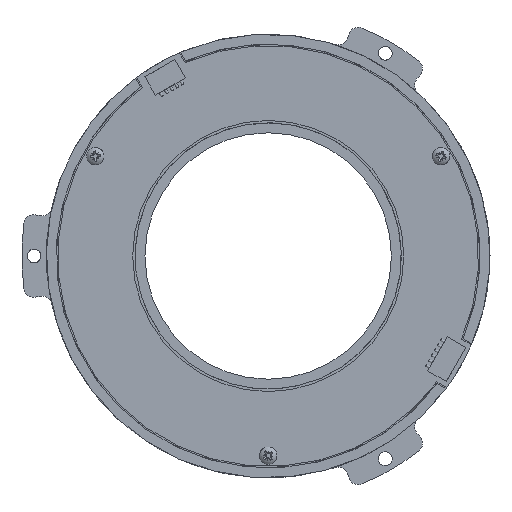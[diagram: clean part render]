
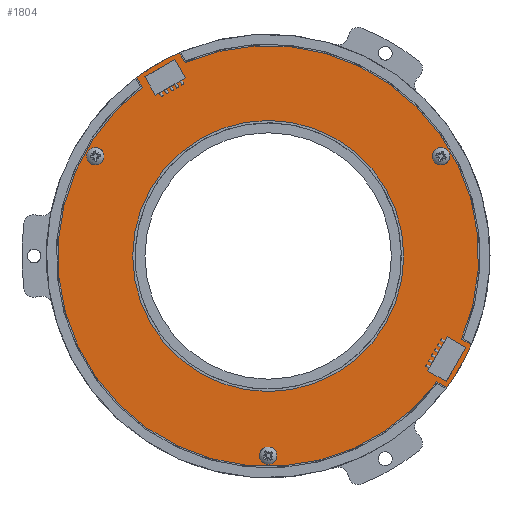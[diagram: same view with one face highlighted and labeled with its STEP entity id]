
A CAD part, left-side view. The second image highlights one B-rep face of the part: STEP entity #1804.
In plain terms, the highlighted planar face has unit normal (-1, 0, 0) as drawn and (0, 0, 1) by its records, which use the part's own axes.
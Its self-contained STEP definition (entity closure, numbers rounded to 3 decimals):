
#1804=ADVANCED_FACE('',(#4052,#4054,#4056,#4058,#4060),#4062,.T.);
#4052=FACE_BOUND('',#4053,.T.);
#4053=EDGE_LOOP('',(#5821,#5822,#5823,#5824,#5825,#5826,#5827,#5828));
#4054=FACE_BOUND('',#4055,.T.);
#4055=EDGE_LOOP('',(#5829,#5830));
#4056=FACE_BOUND('',#4057,.T.);
#4057=EDGE_LOOP('',(#5831,#5832));
#4058=FACE_BOUND('',#4059,.T.);
#4059=EDGE_LOOP('',(#5833));
#4060=FACE_BOUND('',#4061,.T.);
#4061=EDGE_LOOP('',(#5834));
#4062=PLANE('',#4063);
#4063=AXIS2_PLACEMENT_3D('',#4064,#4065,#4066);
#4064=CARTESIAN_POINT('',(0.,0.,1.6));
#4065=DIRECTION('',(0.,0.,1.));
#4066=DIRECTION('',(1.,0.,0.));
#5821=ORIENTED_EDGE('',*,*,#6724,.T.);
#5822=ORIENTED_EDGE('',*,*,#6761,.T.);
#5823=ORIENTED_EDGE('',*,*,#6762,.T.);
#5824=ORIENTED_EDGE('',*,*,#6763,.T.);
#5825=ORIENTED_EDGE('',*,*,#6764,.T.);
#5826=ORIENTED_EDGE('',*,*,#6726,.T.);
#5827=ORIENTED_EDGE('',*,*,#6760,.T.);
#5828=ORIENTED_EDGE('',*,*,#6747,.T.);
#5829=ORIENTED_EDGE('',*,*,#6732,.T.);
#5830=ORIENTED_EDGE('',*,*,#6733,.T.);
#5831=ORIENTED_EDGE('',*,*,#6757,.T.);
#5832=ORIENTED_EDGE('',*,*,#6758,.T.);
#5833=ORIENTED_EDGE('',*,*,#6759,.T.);
#5834=ORIENTED_EDGE('',*,*,#6720,.T.);
#6720=EDGE_CURVE('',#7540,#7540,#7541,.T.);
#6724=EDGE_CURVE('',#7549,#7547,#7550,.T.);
#6726=EDGE_CURVE('',#7552,#7553,#7554,.T.);
#6732=EDGE_CURVE('',#7564,#7565,#7566,.T.);
#6733=EDGE_CURVE('',#7565,#7564,#7567,.T.);
#6747=EDGE_CURVE('',#7592,#7549,#7593,.T.);
#6757=EDGE_CURVE('',#7607,#7608,#7609,.T.);
#6758=EDGE_CURVE('',#7608,#7607,#7610,.T.);
#6759=EDGE_CURVE('',#7611,#7611,#7612,.T.);
#6760=EDGE_CURVE('',#7553,#7592,#7613,.T.);
#6761=EDGE_CURVE('',#7547,#7614,#7615,.T.);
#6762=EDGE_CURVE('',#7614,#7616,#7617,.T.);
#6763=EDGE_CURVE('',#7616,#7618,#7619,.T.);
#6764=EDGE_CURVE('',#7618,#7552,#7620,.T.);
#7540=VERTEX_POINT('',#9322);
#7541=CIRCLE('',#9323,27.5);
#7547=VERTEX_POINT('',#9338);
#7549=VERTEX_POINT('',#9342);
#7550=CIRCLE('',#9343,42.7);
#7552=VERTEX_POINT('',#9350);
#7553=VERTEX_POINT('',#9351);
#7554=LINE('',#9352,#9353);
#7564=VERTEX_POINT('',#9376);
#7565=VERTEX_POINT('',#9377);
#7566=CIRCLE('',#9378,1.1);
#7567=CIRCLE('',#9382,1.1);
#7592=VERTEX_POINT('',#9442);
#7593=LINE('',#9443,#9444);
#7607=VERTEX_POINT('',#9477);
#7608=VERTEX_POINT('',#9478);
#7609=CIRCLE('',#9479,1.1);
#7610=CIRCLE('',#9483,1.1);
#7611=VERTEX_POINT('',#9487);
#7612=CIRCLE('',#9488,1.1);
#7613=CIRCLE('',#9492,45.);
#7614=VERTEX_POINT('',#9496);
#7615=LINE('',#9497,#9498);
#7616=VERTEX_POINT('',#9500);
#7617=CIRCLE('',#9501,45.);
#7618=VERTEX_POINT('',#9505);
#7619=LINE('',#9506,#9507);
#7620=CIRCLE('',#9509,42.7);
#9322=CARTESIAN_POINT('',(-27.5,0.,1.6));
#9323=AXIS2_PLACEMENT_3D('',#9324,#9325,#9326);
#9324=CARTESIAN_POINT('',(0.,0.,1.6));
#9325=DIRECTION('',(0.,0.,-1.));
#9326=DIRECTION('',(-1.,0.,0.));
#9338=CARTESIAN_POINT('',(-25.533,-34.225,1.6));
#9342=CARTESIAN_POINT('',(-5.,42.406,1.6));
#9343=AXIS2_PLACEMENT_3D('',#9344,#9345,#9346);
#9344=CARTESIAN_POINT('',(0.,0.,1.6));
#9345=DIRECTION('',(0.,0.,1.));
#9346=DIRECTION('',(-0.117,0.993,0.));
#9350=CARTESIAN_POINT('',(5.,42.406,1.6));
#9351=CARTESIAN_POINT('',(5.,44.721,1.6));
#9352=CARTESIAN_POINT('',(5.,42.406,1.6));
#9353=VECTOR('',#9354,1.);
#9354=DIRECTION('',(0.,1.,0.));
#9376=CARTESIAN_POINT('',(34.524,21.203,1.6));
#9377=CARTESIAN_POINT('',(35.624,21.203,1.6));
#9378=AXIS2_PLACEMENT_3D('',#9379,#9380,#9381);
#9379=CARTESIAN_POINT('',(35.074,20.25,1.6));
#9380=DIRECTION('',(0.,0.,-1.));
#9381=DIRECTION('',(-0.5,0.866,0.));
#9382=AXIS2_PLACEMENT_3D('',#9383,#9384,#9385);
#9383=CARTESIAN_POINT('',(35.074,20.25,1.6));
#9384=DIRECTION('',(0.,0.,-1.));
#9385=DIRECTION('',(0.5,0.866,0.));
#9442=CARTESIAN_POINT('',(-5.,44.721,1.6));
#9443=CARTESIAN_POINT('',(-5.,44.721,1.6));
#9444=VECTOR('',#9445,1.);
#9445=DIRECTION('',(0.,-1.,0.));
#9477=CARTESIAN_POINT('',(-35.624,19.297,1.6));
#9478=CARTESIAN_POINT('',(-35.624,21.203,1.6));
#9479=AXIS2_PLACEMENT_3D('',#9480,#9481,#9482);
#9480=CARTESIAN_POINT('',(-35.074,20.25,1.6));
#9481=DIRECTION('',(0.,0.,-1.));
#9482=DIRECTION('',(-0.5,-0.866,0.));
#9483=AXIS2_PLACEMENT_3D('',#9484,#9485,#9486);
#9484=CARTESIAN_POINT('',(-35.074,20.25,1.6));
#9485=DIRECTION('',(0.,0.,-1.));
#9486=DIRECTION('',(-0.5,0.866,0.));
#9487=CARTESIAN_POINT('',(1.1,-40.5,1.6));
#9488=AXIS2_PLACEMENT_3D('',#9489,#9490,#9491);
#9489=CARTESIAN_POINT('',(0.,-40.5,1.6));
#9490=DIRECTION('',(0.,0.,-1.));
#9491=DIRECTION('',(1.,0.,0.));
#9492=AXIS2_PLACEMENT_3D('',#9493,#9494,#9495);
#9493=CARTESIAN_POINT('',(0.,0.,1.6));
#9494=DIRECTION('',(0.,0.,1.));
#9495=DIRECTION('',(0.111,0.994,0.));
#9496=CARTESIAN_POINT('',(-26.691,-36.23,1.6));
#9497=CARTESIAN_POINT('',(-25.533,-34.225,1.6));
#9498=VECTOR('',#9499,1.);
#9499=DIRECTION('',(-0.5,-0.866,0.));
#9500=CARTESIAN_POINT('',(-18.031,-41.23,1.6));
#9501=AXIS2_PLACEMENT_3D('',#9502,#9503,#9504);
#9502=CARTESIAN_POINT('',(0.,0.,1.6));
#9503=DIRECTION('',(0.,0.,1.));
#9504=DIRECTION('',(-0.593,-0.805,0.));
#9505=CARTESIAN_POINT('',(-16.873,-39.225,1.6));
#9506=CARTESIAN_POINT('',(-18.031,-41.23,1.6));
#9507=VECTOR('',#9508,1.);
#9508=DIRECTION('',(0.5,0.866,0.));
#9509=AXIS2_PLACEMENT_3D('',#9510,#9511,#9512);
#9510=CARTESIAN_POINT('',(0.,0.,1.6));
#9511=DIRECTION('',(0.,0.,1.));
#9512=DIRECTION('',(-0.395,-0.919,0.));
